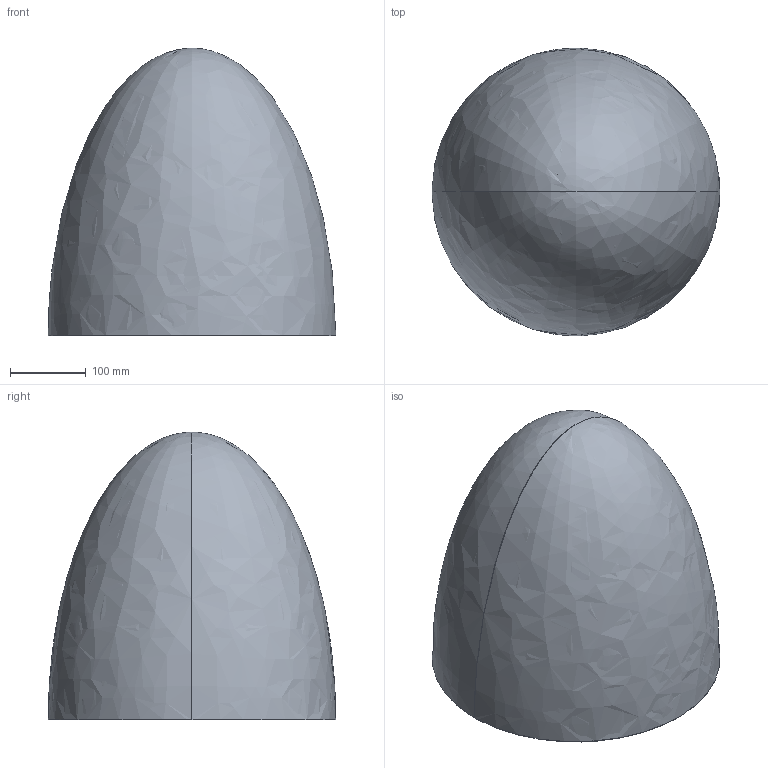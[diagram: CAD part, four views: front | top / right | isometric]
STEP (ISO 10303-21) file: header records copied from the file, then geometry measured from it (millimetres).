
FILE_DESCRIPTION(('ANSA STEP Exchange Structure File'),'2;1');
FILE_NAME('/gpfs/home/T0018277/Maury3/data/TA/AntenneBis/Antenne164/Radome.step','2023-05-09T16:24',('t0018277'),('none'),'ANSA 21.1.3','ANSA 21.1.3 AP214','none');
FILE_SCHEMA(('AUTOMOTIVE_DESIGN { 1 0 10303 214 1 1 1 1 }'));
Length unit declared in the file: millimetre
Products named in the file (2): patch_v0_facto_bis.unv; 1 Default PSHELL Property
Assembly tree (1 placements, depth 2):
  patch_v0_facto_bis.unv
    1 Default PSHELL Property
Bounding box: 380 x 379.62 x 380.03 mm (x, y, z)
Surface area: 1487257.4 mm2 (no closed solid volume)
Topology: 0 solids, 2 shells, 14 faces, 30 edges, 14 vertices
Faces by surface type: revolution 14
Entity records: 3338 total; most frequent: CARTESIAN_POINT 3072, ORIENTED_EDGE 48, B_SPLINE_CURVE_WITH_KNOTS 32, DIRECTION 26, EDGE_CURVE 22, EDGE_LOOP 14, FACE_OUTER_BOUND 14, TRIMMED_CURVE 14
